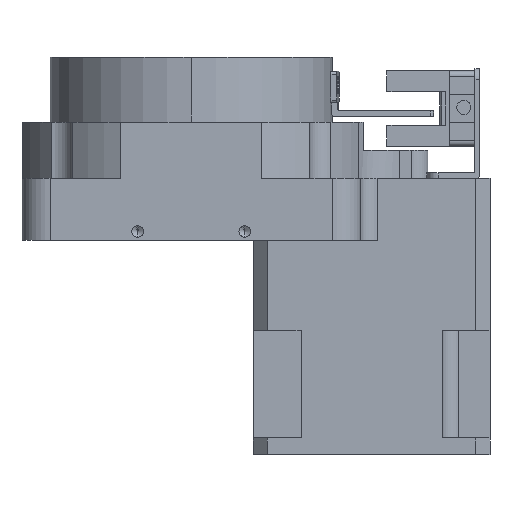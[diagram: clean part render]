
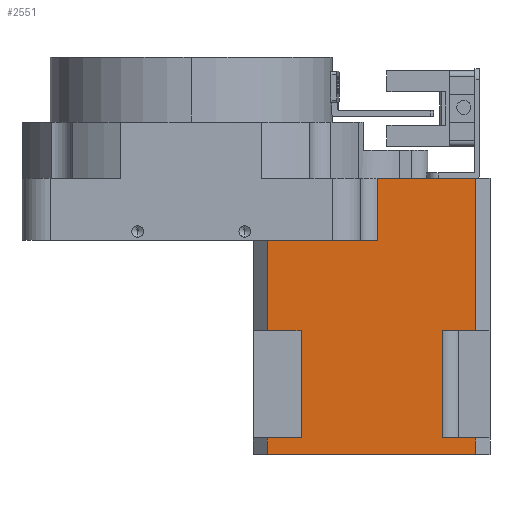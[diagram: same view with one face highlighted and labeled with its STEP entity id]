
A CAD part, left-side view. The second image highlights one B-rep face of the part: STEP entity #2551.
In plain terms, the highlighted planar face has unit normal (-1, 0, 0).
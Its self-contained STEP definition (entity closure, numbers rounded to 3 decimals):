
#92 = CARTESIAN_POINT ( 'NONE',  ( -49.132, -49.744, 11.75 ) ) ;
#128 = CARTESIAN_POINT ( 'NONE',  ( -49.132, -32.219, -34.25 ) ) ;
#143 = ORIENTED_EDGE ( 'NONE', *, *, #2629, .F. ) ;
#273 = VERTEX_POINT ( 'NONE', #3237 ) ;
#288 = EDGE_CURVE ( 'NONE', #5774, #8902, #1751, .T. ) ;
#299 = LINE ( 'NONE', #1567, #1272 ) ;
#463 = CARTESIAN_POINT ( 'NONE',  ( -49.132, -12.744, -34.25 ) ) ;
#465 = ORIENTED_EDGE ( 'NONE', *, *, #6248, .F. ) ;
#509 = VECTOR ( 'NONE', #1006, 1000. ) ;
#631 = EDGE_CURVE ( 'NONE', #273, #1629, #1679, .T. ) ;
#648 = CARTESIAN_POINT ( 'NONE',  ( -49.132, -32.219, -15.25 ) ) ;
#749 = EDGE_LOOP ( 'NONE', ( #143, #2567, #780, #465, #1107, #4535, #2466, #8166, #881, #8253, #6991, #4829, #6411, #7537 ) ) ;
#770 = VECTOR ( 'NONE', #6686, 1000. ) ;
#780 = ORIENTED_EDGE ( 'NONE', *, *, #1095, .T. ) ;
#835 = CARTESIAN_POINT ( 'NONE',  ( -49.132, -49.744, -15.25 ) ) ;
#881 = ORIENTED_EDGE ( 'NONE', *, *, #2639, .F. ) ;
#1006 = DIRECTION ( 'NONE',  ( 0., 1., 0. ) ) ;
#1028 = LINE ( 'NONE', #4518, #5833 ) ;
#1095 = EDGE_CURVE ( 'NONE', #1724, #8706, #5345, .T. ) ;
#1099 = VECTOR ( 'NONE', #7076, 1000. ) ;
#1107 = ORIENTED_EDGE ( 'NONE', *, *, #4953, .F. ) ;
#1164 = DIRECTION ( 'NONE',  ( 0., 0., 1. ) ) ;
#1206 = LINE ( 'NONE', #3428, #2261 ) ;
#1207 = EDGE_CURVE ( 'NONE', #8157, #8004, #1980, .T. ) ;
#1258 = DIRECTION ( 'NONE',  ( 0., 1., 0. ) ) ;
#1272 = VECTOR ( 'NONE', #2199, 1000. ) ;
#1320 = CARTESIAN_POINT ( 'NONE',  ( -49.132, -18.744, -15.25 ) ) ;
#1567 = CARTESIAN_POINT ( 'NONE',  ( -49.132, -49.744, 33.25 ) ) ;
#1629 = VERTEX_POINT ( 'NONE', #4958 ) ;
#1679 = LINE ( 'NONE', #7220, #509 ) ;
#1724 = VERTEX_POINT ( 'NONE', #2268 ) ;
#1751 = LINE ( 'NONE', #6068, #7724 ) ;
#1754 = CARTESIAN_POINT ( 'NONE',  ( -49.132, -12.744, -37.25 ) ) ;
#1980 = LINE ( 'NONE', #8238, #4902 ) ;
#2105 = VERTEX_POINT ( 'NONE', #92 ) ;
#2175 = VERTEX_POINT ( 'NONE', #7882 ) ;
#2199 = DIRECTION ( 'NONE',  ( 0., 0., -1. ) ) ;
#2251 = LINE ( 'NONE', #5034, #1099 ) ;
#2261 = VECTOR ( 'NONE', #3976, 1000. ) ;
#2268 = CARTESIAN_POINT ( 'NONE',  ( -49.132, -43.744, -34.25 ) ) ;
#2284 = CARTESIAN_POINT ( 'NONE',  ( -49.132, -43.744, -15.25 ) ) ;
#2304 = EDGE_CURVE ( 'NONE', #2175, #5774, #3845, .T. ) ;
#2331 = FACE_OUTER_BOUND ( 'NONE', #749, .T. ) ;
#2336 = DIRECTION ( 'NONE',  ( 0., -1., 0. ) ) ;
#2466 = ORIENTED_EDGE ( 'NONE', *, *, #4040, .T. ) ;
#2531 = EDGE_CURVE ( 'NONE', #2725, #1724, #7199, .T. ) ;
#2551 = ADVANCED_FACE ( 'NONE', ( #2331 ), #5023, .F. ) ;
#2567 = ORIENTED_EDGE ( 'NONE', *, *, #2531, .T. ) ;
#2629 = EDGE_CURVE ( 'NONE', #2725, #2175, #299, .T. ) ;
#2639 = EDGE_CURVE ( 'NONE', #7255, #1629, #2972, .T. ) ;
#2725 = VERTEX_POINT ( 'NONE', #8807 ) ;
#2867 = VECTOR ( 'NONE', #3568, 1000. ) ;
#2972 = LINE ( 'NONE', #5118, #8653 ) ;
#3062 = DIRECTION ( 'NONE',  ( 0., 0., 1. ) ) ;
#3237 = CARTESIAN_POINT ( 'NONE',  ( -49.132, -32.219, 0.75 ) ) ;
#3243 = CARTESIAN_POINT ( 'NONE',  ( -49.132, -43.744, 33.25 ) ) ;
#3428 = CARTESIAN_POINT ( 'NONE',  ( -49.132, -32.219, -15.25 ) ) ;
#3553 = VECTOR ( 'NONE', #6722, 1000. ) ;
#3568 = DIRECTION ( 'NONE',  ( 0., 1., 0. ) ) ;
#3743 = VECTOR ( 'NONE', #1258, 1000. ) ;
#3749 = DIRECTION ( 'NONE',  ( 1., 0., 0. ) ) ;
#3845 = LINE ( 'NONE', #8821, #3743 ) ;
#3867 = CARTESIAN_POINT ( 'NONE',  ( -49.132, -32.219, 11.75 ) ) ;
#3881 = VECTOR ( 'NONE', #7960, 1000. ) ;
#3976 = DIRECTION ( 'NONE',  ( 0., 1., 0. ) ) ;
#4040 = EDGE_CURVE ( 'NONE', #4190, #273, #7283, .T. ) ;
#4161 = DIRECTION ( 'NONE',  ( 0., 0., 1. ) ) ;
#4190 = VERTEX_POINT ( 'NONE', #3867 ) ;
#4518 = CARTESIAN_POINT ( 'NONE',  ( -49.132, -32.219, 11.75 ) ) ;
#4535 = ORIENTED_EDGE ( 'NONE', *, *, #8341, .F. ) ;
#4634 = CARTESIAN_POINT ( 'NONE',  ( -49.132, -49.744, 33.25 ) ) ;
#4829 = ORIENTED_EDGE ( 'NONE', *, *, #6884, .T. ) ;
#4902 = VECTOR ( 'NONE', #4161, 1000. ) ;
#4953 = EDGE_CURVE ( 'NONE', #2105, #7723, #8070, .T. ) ;
#4958 = CARTESIAN_POINT ( 'NONE',  ( -49.132, -12.744, 0.75 ) ) ;
#5023 = PLANE ( 'NONE',  #7222 ) ;
#5034 = CARTESIAN_POINT ( 'NONE',  ( -49.132, -32.219, -34.25 ) ) ;
#5118 = CARTESIAN_POINT ( 'NONE',  ( -49.132, -12.744, -37.25 ) ) ;
#5345 = LINE ( 'NONE', #3243, #7637 ) ;
#5774 = VERTEX_POINT ( 'NONE', #1754 ) ;
#5833 = VECTOR ( 'NONE', #2336, 1000. ) ;
#5881 = CARTESIAN_POINT ( 'NONE',  ( -49.132, -32.219, 33.25 ) ) ;
#6068 = CARTESIAN_POINT ( 'NONE',  ( -49.132, -12.744, -37.25 ) ) ;
#6248 = EDGE_CURVE ( 'NONE', #7723, #8706, #7405, .T. ) ;
#6411 = ORIENTED_EDGE ( 'NONE', *, *, #288, .F. ) ;
#6608 = DIRECTION ( 'NONE',  ( 0., 0., 1. ) ) ;
#6686 = DIRECTION ( 'NONE',  ( 0., 1., 0. ) ) ;
#6722 = DIRECTION ( 'NONE',  ( 0., 0., -1. ) ) ;
#6884 = EDGE_CURVE ( 'NONE', #8157, #8902, #2251, .T. ) ;
#6991 = ORIENTED_EDGE ( 'NONE', *, *, #1207, .F. ) ;
#7021 = DIRECTION ( 'NONE',  ( 0., 1., 0. ) ) ;
#7076 = DIRECTION ( 'NONE',  ( 0., 1., 0. ) ) ;
#7150 = CARTESIAN_POINT ( 'NONE',  ( -49.132, -32.219, 33.25 ) ) ;
#7184 = EDGE_CURVE ( 'NONE', #8004, #7255, #1206, .T. ) ;
#7199 = LINE ( 'NONE', #128, #2867 ) ;
#7220 = CARTESIAN_POINT ( 'NONE',  ( -49.132, -12.744, 0.75 ) ) ;
#7222 = AXIS2_PLACEMENT_3D ( 'NONE', #7150, #3749, #7021 ) ;
#7255 = VERTEX_POINT ( 'NONE', #7730 ) ;
#7283 = LINE ( 'NONE', #5881, #3881 ) ;
#7405 = LINE ( 'NONE', #648, #770 ) ;
#7537 = ORIENTED_EDGE ( 'NONE', *, *, #2304, .F. ) ;
#7637 = VECTOR ( 'NONE', #1164, 1000. ) ;
#7723 = VERTEX_POINT ( 'NONE', #835 ) ;
#7724 = VECTOR ( 'NONE', #6608, 1000. ) ;
#7730 = CARTESIAN_POINT ( 'NONE',  ( -49.132, -12.744, -15.25 ) ) ;
#7882 = CARTESIAN_POINT ( 'NONE',  ( -49.132, -49.744, -37.25 ) ) ;
#7960 = DIRECTION ( 'NONE',  ( 0., 0., -1. ) ) ;
#8004 = VERTEX_POINT ( 'NONE', #1320 ) ;
#8070 = LINE ( 'NONE', #4634, #3553 ) ;
#8157 = VERTEX_POINT ( 'NONE', #8247 ) ;
#8166 = ORIENTED_EDGE ( 'NONE', *, *, #631, .T. ) ;
#8238 = CARTESIAN_POINT ( 'NONE',  ( -49.132, -18.744, 33.25 ) ) ;
#8247 = CARTESIAN_POINT ( 'NONE',  ( -49.132, -18.744, -34.25 ) ) ;
#8253 = ORIENTED_EDGE ( 'NONE', *, *, #7184, .F. ) ;
#8341 = EDGE_CURVE ( 'NONE', #4190, #2105, #1028, .T. ) ;
#8653 = VECTOR ( 'NONE', #3062, 1000. ) ;
#8706 = VERTEX_POINT ( 'NONE', #2284 ) ;
#8807 = CARTESIAN_POINT ( 'NONE',  ( -49.132, -49.744, -34.25 ) ) ;
#8821 = CARTESIAN_POINT ( 'NONE',  ( -49.132, -12.744, -37.25 ) ) ;
#8902 = VERTEX_POINT ( 'NONE', #463 ) ;
